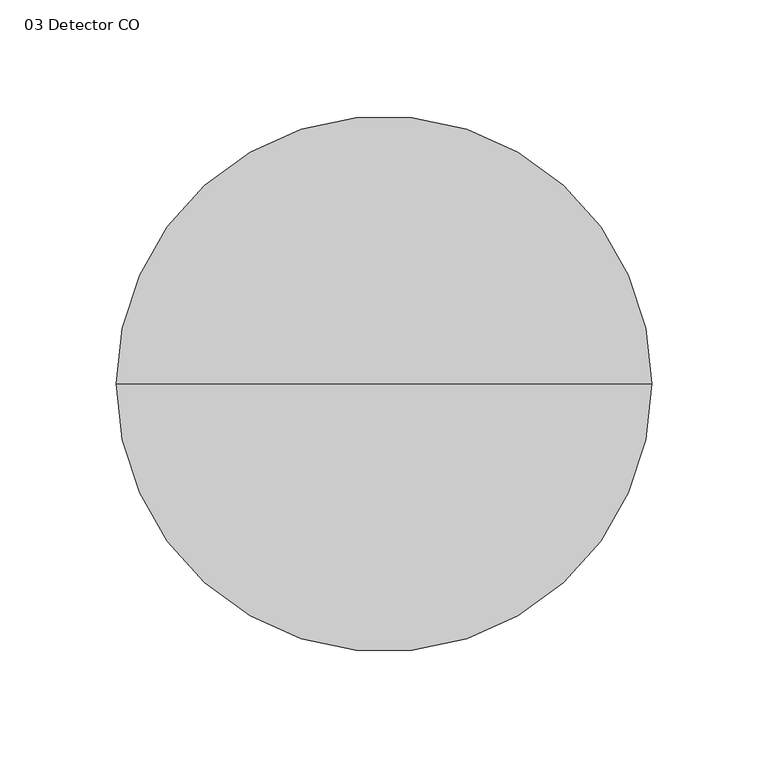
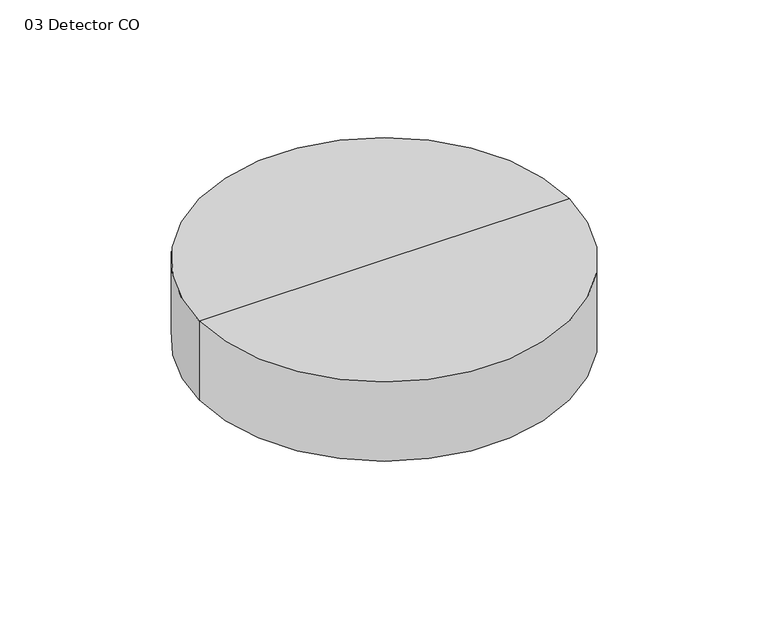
"""IFC4 building model written with IfcOpenShell, lengths in millimetres: alarm geometry, ZYR_12.01.08 Detectors : 03 Detector CO."""

from ifc_helpers import new_model, si_unit, frame, origin, place, context, project, spatial, polyline, circle_curve, source, transform, mapped, element, save
from ifc_brep_helpers import plane_surface, cylinder_surface, revolved_surface, advanced_brep


def alarm_03_detector_co_83cd7a72(model_context):
    return source(origin(), model_context, "Body", "AdvancedBrep", [
        advanced_brep(
        [(115.0, 0.0, -52.1368338), (-115.0, 0.0, -52.1368338), (-115.0, 0.0, 0.0), (115.0, 0.0, 0.0), (57.5, 0.0, -78.2052507), (-57.5, 0.0, -78.2052507), (-57.5, 0.0, -65.1710422), (57.5, 0.0, -65.1710422), (0.0, 0.0, 0.0), (0.0, 0.0, -78.2052507)],
        [
            (0, 1, circle_curve(frame((0.0, 0.0, -52.1368338), z_axis=(0.0, 0.0, 1.0), x_axis=(-1.0, 0.0, 0.0)), 115.0)),
            (1, 2),
            (2, 3, circle_curve(frame((0.0, 0.0, 0.0), z_axis=(0.0, 0.0, -1.0), x_axis=(-1.0, 0.0, 0.0)), 115.0)),
            (3, 0),
            (1, 0, circle_curve(frame((0.0, 0.0, -52.1368338), z_axis=(0.0, 0.0, 1.0), x_axis=(-1.0, 0.0, 0.0)), 115.0)),
            (3, 2, circle_curve(frame((0.0, 0.0, 0.0), z_axis=(0.0, 0.0, -1.0), x_axis=(-1.0, 0.0, 0.0)), 115.0)),
            (4, 5, circle_curve(frame((0.0, 0.0, -78.2052507), z_axis=(0.0, 0.0, 1.0), x_axis=(-1.0, 0.0, 0.0)), 57.5)),
            (5, 6),
            (6, 7, circle_curve(frame((0.0, 0.0, -65.1710422), z_axis=(0.0, 0.0, -1.0), x_axis=(-1.0, 0.0, 0.0)), 57.5)),
            (7, 4),
            (5, 4, circle_curve(frame((0.0, 0.0, -78.2052507), z_axis=(0.0, 0.0, 1.0), x_axis=(-1.0, 0.0, 0.0)), 57.5)),
            (7, 6, circle_curve(frame((0.0, 0.0, -65.1710422), z_axis=(0.0, 0.0, -1.0), x_axis=(-1.0, 0.0, 0.0)), 57.5)),
            (2, 8),
            (8, 3),
            (9, 5),
            (4, 9),
            (6, 1),
            (0, 7),
        ],
        [
            cylinder_surface(frame((0.0, 0.0, 10.0), z_axis=(0.0, 0.0, -1.0), x_axis=(-1.0, 0.0, 0.0)), 115.0),
            cylinder_surface(frame((0.0, 0.0, 10.0), z_axis=(0.0, 0.0, -1.0), x_axis=(-1.0, 0.0, 0.0)), 57.5),
            plane_surface(frame((0.0, 0.0, 0.0), z_axis=(0.0, 0.0, 1.0), x_axis=(-1.0, 0.0, 0.0))),
            plane_surface(frame((0.0, 0.0, -78.2052507), z_axis=(0.0, 0.0, -1.0), x_axis=(-1.0, 0.0, 0.0))),
            revolved_surface(polyline([(-115.0, 0.0, -52.1368338), (-57.5, 0.0, -65.1710422)]), (0.0, 0.0, 10.0), (0.0, 0.0, -1.0)),
        ],
        [
            (0, [[1, 2, 3, 4]]),
            (0, [[5, -4, 6, -2]]),
            (1, [[7, 8, 9, 10]]),
            (1, [[11, -10, 12, -8]]),
            (2, [[-3, 13, 14]]),
            (2, [[-6, -14, -13]]),
            (3, [[15, -7, 16]]),
            (3, [[-16, -11, -15]]),
            (4, [[-9, 17, -1, 18]]),
            (4, [[-12, -18, -5, -17]]),
        ],
    ),
    ])


if __name__ == "__main__":
    model = new_model("IFC4")
    model_context = context("Model", 3, world=origin())
    ifc_project = project(units=[si_unit("LENGTHUNIT", "METRE", prefix="MILLI")], contexts=[model_context])
    site = spatial("IfcSite", under=ifc_project)
    building = spatial("IfcBuilding", under=site)
    placement = place(None, origin())
    alarm_03_detector_co_shape = alarm_03_detector_co_83cd7a72(model_context)
    element("IfcAlarm", 1, ObjectType="ZYR_12.01.08 Detectors : 03 Detector CO", at=placement, inside=building, context=model_context, shape_type="MappedRepresentation", body=[
        mapped(alarm_03_detector_co_shape, transform((0.0, 0.0, 0.0), x_axis=(1.0, 0.0, 0.0), y_axis=(0.0, 1.0, 0.0), z_axis=(0.0, 0.0, 1.0))),
    ])
    save(model, "model.ifc")
